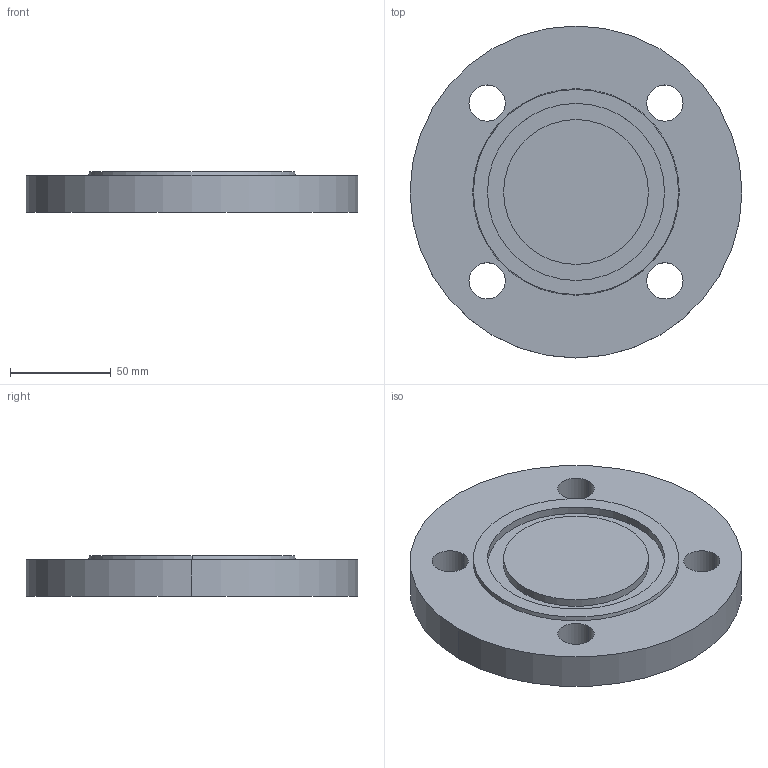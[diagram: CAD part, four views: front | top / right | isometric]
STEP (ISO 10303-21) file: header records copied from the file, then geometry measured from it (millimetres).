
FILE_DESCRIPTION (( 'STEP AP214' ), '1' );
FILE_NAME ('PN40 DN50 Type 05 - Type D Face.STEP', '2018-12-30T04:40:55', ( '' ), ( '' ), 'SwSTEP 2.0', 'SolidWorks 2019', '' );
FILE_SCHEMA (( 'AUTOMOTIVE_DESIGN' ));
Length unit declared in the file: millimetre
Products named in the file (1): PN40 DN50 Type 05 - Type D Face
Bounding box: 165 x 165 x 20 mm (x, y, z)
Volume: 374976 mm3; surface area: 56681.5 mm2
Topology: 1 solids, 1 shells, 21 faces, 48 edges, 32 vertices
Faces by surface type: cylinder 14, plane 5, cone 2
Entity records: 664 total; most frequent: DIRECTION 124, CARTESIAN_POINT 102, ORIENTED_EDGE 96, AXIS2_PLACEMENT_3D 54, EDGE_CURVE 48, CIRCLE 32, EDGE_LOOP 32, VERTEX_POINT 32
